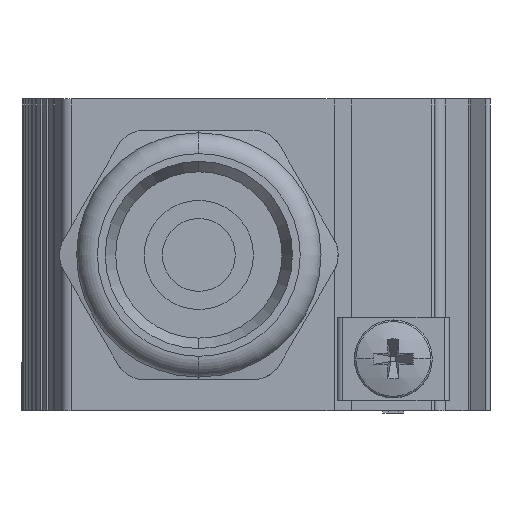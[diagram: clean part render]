
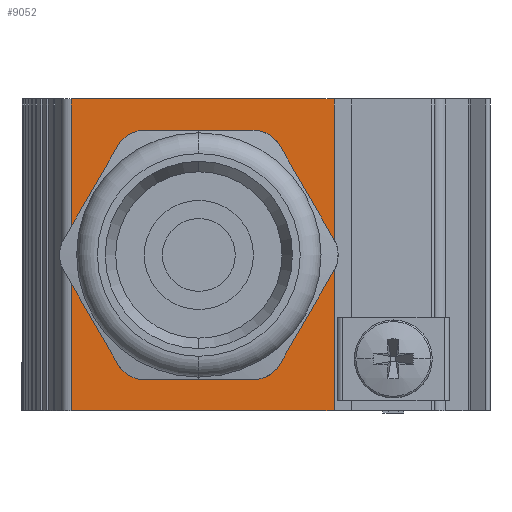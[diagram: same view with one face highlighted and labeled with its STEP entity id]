
A CAD part, front view. The second image highlights one B-rep face of the part: STEP entity #9052.
In plain terms, the highlighted planar face has unit normal (0, -1, 0).
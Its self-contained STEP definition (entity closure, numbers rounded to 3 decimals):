
#153 = CARTESIAN_POINT ( 'NONE',  ( 0., -2.5, -15. ) ) ;
#178 = CIRCLE ( 'NONE', #11397, 10.65 ) ;
#212 = CARTESIAN_POINT ( 'NONE',  ( -9.7, -2.5, 15. ) ) ;
#337 = CARTESIAN_POINT ( 'NONE',  ( -12.05, -2.5, 0. ) ) ;
#875 = CARTESIAN_POINT ( 'NONE',  ( -34.973, -2.5, -15. ) ) ;
#878 = EDGE_CURVE ( 'NONE', #5060, #10308, #8542, .T. ) ;
#1813 = VERTEX_POINT ( 'NONE', #3847 ) ;
#2117 = DIRECTION ( 'NONE',  ( 0., 1., 0. ) ) ;
#2298 = ORIENTED_EDGE ( 'NONE', *, *, #13773, .T. ) ;
#2307 = EDGE_LOOP ( 'NONE', ( #3542, #7466, #6569, #4476 ) ) ;
#2982 = DIRECTION ( 'NONE',  ( 1., 0., 0. ) ) ;
#3469 = EDGE_CURVE ( 'NONE', #8219, #5060, #12756, .T. ) ;
#3479 = DIRECTION ( 'NONE',  ( 0., 0., 1. ) ) ;
#3497 = DIRECTION ( 'NONE',  ( 0., 1., 0. ) ) ;
#3542 = ORIENTED_EDGE ( 'NONE', *, *, #878, .T. ) ;
#3724 = DIRECTION ( 'NONE',  ( 1., 0., 0. ) ) ;
#3761 = LINE ( 'NONE', #11849, #7417 ) ;
#3847 = CARTESIAN_POINT ( 'NONE',  ( -33.35, -2.5, 0. ) ) ;
#4043 = VECTOR ( 'NONE', #2982, 1000. ) ;
#4458 = CARTESIAN_POINT ( 'NONE',  ( -34.973, -2.5, 15. ) ) ;
#4476 = ORIENTED_EDGE ( 'NONE', *, *, #3469, .T. ) ;
#5008 = VERTEX_POINT ( 'NONE', #337 ) ;
#5060 = VERTEX_POINT ( 'NONE', #875 ) ;
#5413 = AXIS2_PLACEMENT_3D ( 'NONE', #9289, #5903, #10451 ) ;
#5903 = DIRECTION ( 'NONE',  ( 0., 1., 0. ) ) ;
#6112 = EDGE_LOOP ( 'NONE', ( #11745, #2298 ) ) ;
#6180 = CARTESIAN_POINT ( 'NONE',  ( -9.7, -2.5, -15. ) ) ;
#6569 = ORIENTED_EDGE ( 'NONE', *, *, #14151, .F. ) ;
#7143 = DIRECTION ( 'NONE',  ( -1., 0., 0. ) ) ;
#7385 = AXIS2_PLACEMENT_3D ( 'NONE', #9174, #2117, #13795 ) ;
#7417 = VECTOR ( 'NONE', #3479, 1000. ) ;
#7466 = ORIENTED_EDGE ( 'NONE', *, *, #11626, .T. ) ;
#7971 = VECTOR ( 'NONE', #3724, 1000. ) ;
#8219 = VERTEX_POINT ( 'NONE', #8780 ) ;
#8542 = LINE ( 'NONE', #153, #7971 ) ;
#8589 = CIRCLE ( 'NONE', #7385, 10.65 ) ;
#8645 = VERTEX_POINT ( 'NONE', #212 ) ;
#8780 = CARTESIAN_POINT ( 'NONE',  ( -34.973, -2.5, 15. ) ) ;
#9052 = ADVANCED_FACE ( 'NONE', ( #10729, #14271 ), #13027, .F. ) ;
#9174 = CARTESIAN_POINT ( 'NONE',  ( -22.7, -2.5, 0. ) ) ;
#9289 = CARTESIAN_POINT ( 'NONE',  ( 0., -2.5, 15. ) ) ;
#10162 = CARTESIAN_POINT ( 'NONE',  ( 0., -2.5, 15. ) ) ;
#10308 = VERTEX_POINT ( 'NONE', #6180 ) ;
#10451 = DIRECTION ( 'NONE',  ( -1., 0., 0. ) ) ;
#10729 = FACE_BOUND ( 'NONE', #6112, .T. ) ;
#10898 = EDGE_CURVE ( 'NONE', #1813, #5008, #8589, .T. ) ;
#11397 = AXIS2_PLACEMENT_3D ( 'NONE', #12906, #3497, #7143 ) ;
#11626 = EDGE_CURVE ( 'NONE', #10308, #8645, #3761, .T. ) ;
#11745 = ORIENTED_EDGE ( 'NONE', *, *, #10898, .T. ) ;
#11849 = CARTESIAN_POINT ( 'NONE',  ( -9.7, -2.5, -17.625 ) ) ;
#11988 = LINE ( 'NONE', #10162, #4043 ) ;
#12197 = VECTOR ( 'NONE', #12759, 1000. ) ;
#12756 = LINE ( 'NONE', #4458, #12197 ) ;
#12759 = DIRECTION ( 'NONE',  ( 0., 0., -1. ) ) ;
#12906 = CARTESIAN_POINT ( 'NONE',  ( -22.7, -2.5, 0. ) ) ;
#13027 = PLANE ( 'NONE',  #5413 ) ;
#13773 = EDGE_CURVE ( 'NONE', #5008, #1813, #178, .T. ) ;
#13795 = DIRECTION ( 'NONE',  ( -1., 0., 0. ) ) ;
#14151 = EDGE_CURVE ( 'NONE', #8219, #8645, #11988, .T. ) ;
#14271 = FACE_OUTER_BOUND ( 'NONE', #2307, .T. ) ;
